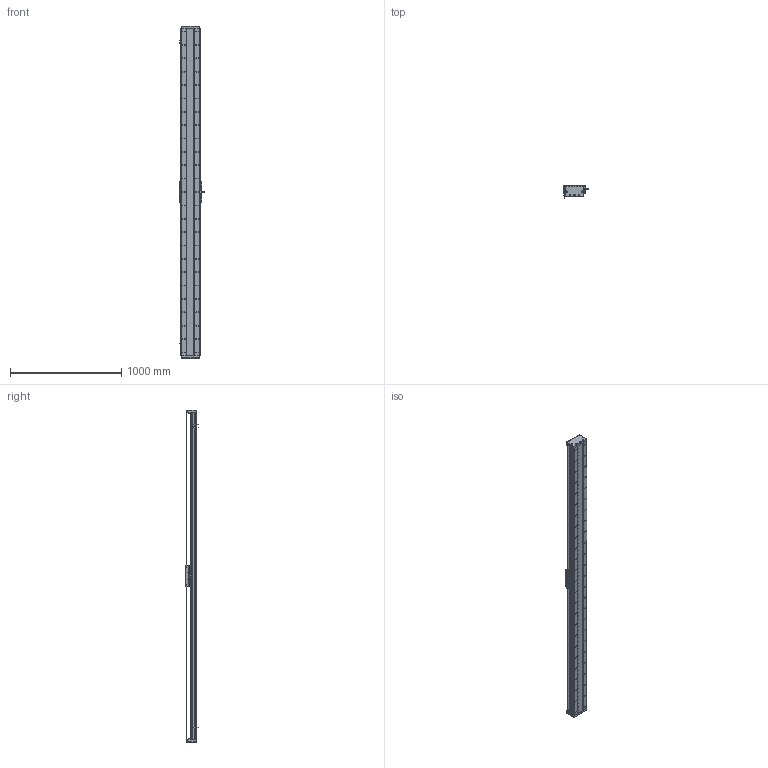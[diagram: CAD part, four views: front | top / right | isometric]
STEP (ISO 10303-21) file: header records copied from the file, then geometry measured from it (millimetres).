
FILE_DESCRIPTION (( 'STEP AP203' ), '1' );
FILE_NAME ('DA-C165-C2-T2700-C010-0.2 直线电机.STEP', '2023-05-11T07:50:49', ( '微软用户' ), ( '微软中国' ), 'SwSTEP 2.0', 'SolidWorks 2019', '' );
FILE_SCHEMA (( 'CONFIG_CONTROL_DESIGN' ));
Length unit declared in the file: millimetre
Products named in the file (18): IU-CU165-L-00 菁釱_L2940; 复件 CU165钢带组件^DA-C165-C2-T-C010-0.2-N 直线电机; 葩璃 DA95-GT-T-00^IU-CU165-L 菁釱絳寢_T; 葩璃 PM-T45^DA-C165-C2-T-C010-0.2-N 眻盄萇儂; DA-C165-C2-T2700-C010-0.2 眻盄萇儂; 复件 CKM02-W075-C1C2-TP-3.0 一体电机-C2^DA-C165-C2-T-C010-0.2-N 直线电机; 复件 DA165-GDYK-00 钢带压块^复件 CU165钢带组件_DA-C165-C2-T-C010-0.2-N 直线电机; 复件 DA165-GD-DG-H-00 端盖^复件 CU165钢带组件_DA-C165-C2-T-C010-0.2-N 直线电机; 复件 DA165-GDLK-00 钢带拉块^复件 CU165钢带组件_DA-C165-C2-T-C010-0.2-N 直线电机; 复件 DA95-HXJ-00 缓冲橡胶^DA-C165-C2-T-C010-0.2-N 直线电机; 复件 DA165-GD-1860-002-00 钢带盖板^复件 CU165钢带组件_DA-C165-C2-T-C010-0.2-N 直线电机; 复件 六角薄螺母 M3^DA-C165-C2-T-C010-0.2-N 直线电机_GB_FASTENER_NUT_STNAB M3-C; 复件 XD-U-02L 磁栅尺^DA-C165-C2-T-C010-0.2-N 直线电机_T; 珨极趙賑雄怢啣wf-C2; 复件 DMA-010-0.2 读数头^DA-C165-C2-T-C010-0.2-N 直线电机; IU-CU165-L 菁釱絳寢; 复件 DA165-GYP-00 光电感应片^DA-C165-C2-T-C010-0.2-N 直线电机; 葩璃 CKM01-W075-TRL^DA-C165-C2-T-C010-0.2-N 眻盄萇儂
Assembly tree (33 placements, depth 3):
  DA-C165-C2-T2700-C010-0.2 眻盄萇儂
    IU-CU165-L 菁釱絳寢
      IU-CU165-L-00 菁釱_L2940
      葩璃 DA95-GT-T-00^IU-CU165-L 菁釱絳寢_T  x4
    复件 XD-U-02L 磁栅尺^DA-C165-C2-T-C010-0.2-N 直线电机_T
    葩璃 PM-T45^DA-C165-C2-T-C010-0.2-N 眻盄萇儂  x3
    葩璃 CKM01-W075-TRL^DA-C165-C2-T-C010-0.2-N 眻盄萇儂
    复件 CU165钢带组件^DA-C165-C2-T-C010-0.2-N 直线电机
      复件 DA165-GD-DG-H-00 端盖^复件 CU165钢带组件_DA-C165-C2-T-C010-0.2-N 直线电机  x2
      复件 DA165-GDYK-00 钢带压块^复件 CU165钢带组件_DA-C165-C2-T-C010-0.2-N 直线电机  x2
      复件 DA165-GD-1860-002-00 钢带盖板^复件 CU165钢带组件_DA-C165-C2-T-C010-0.2-N 直线电机
      复件 DA165-GDLK-00 钢带拉块^复件 CU165钢带组件_DA-C165-C2-T-C010-0.2-N 直线电机  x2
    复件 DA95-HXJ-00 缓冲橡胶^DA-C165-C2-T-C010-0.2-N 直线电机  x4
    复件 DA165-GYP-00 光电感应片^DA-C165-C2-T-C010-0.2-N 直线电机
    复件 DMA-010-0.2 读数头^DA-C165-C2-T-C010-0.2-N 直线电机
    复件 CKM02-W075-C1C2-TP-3.0 一体电机-C2^DA-C165-C2-T-C010-0.2-N 直线电机
    复件 六角薄螺母 M3^DA-C165-C2-T-C010-0.2-N 直线电机_GB_FASTENER_NUT_STNAB M3-C  x6
    珨极趙賑雄怢啣wf-C2
Bounding box: 233 x 111.45 x 2980 mm (x, y, z)
Volume: 16282755.9 mm3; surface area: 4940640.4 mm2
Topology: 70 solids, 70 shells, 4071 faces, 12127 edges, 7775 vertices
Faces by surface type: cylinder 2477, plane 1114, cone 430, torus 46, sphere 4
Entity records: 140791 total; most frequent: CARTESIAN_POINT 39079, ORIENTED_EDGE 21426, DIRECTION 20365, EDGE_CURVE 10713, AXIS2_PLACEMENT_3D 7803, VERTEX_POINT 7011, EDGE_LOOP 4852, LINE 4759
